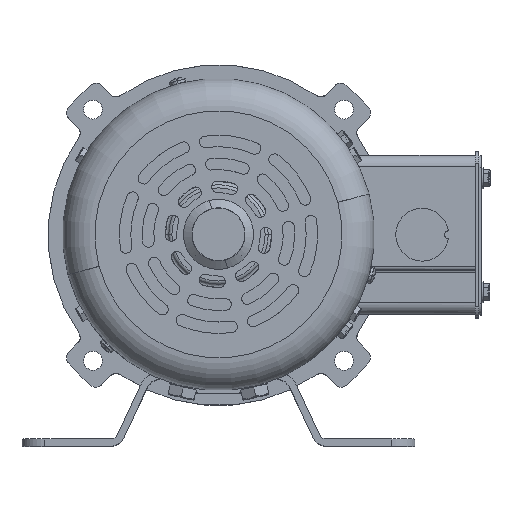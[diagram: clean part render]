
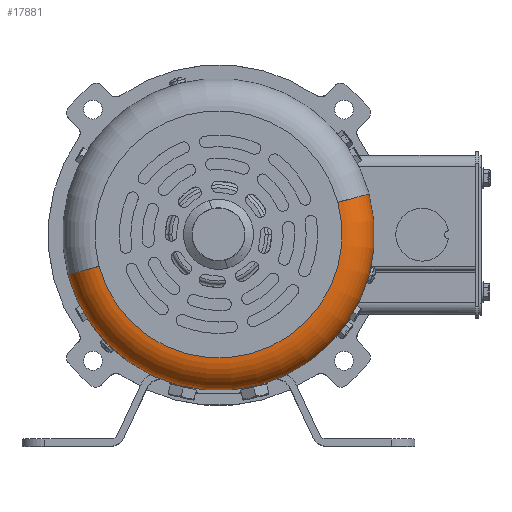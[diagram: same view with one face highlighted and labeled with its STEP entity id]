
A CAD part, top view. The second image highlights one B-rep face of the part: STEP entity #17881.
In plain terms, the highlighted toroidal (fillet/blend) face has major radius 51.943 mm and minor radius 13.589 mm.
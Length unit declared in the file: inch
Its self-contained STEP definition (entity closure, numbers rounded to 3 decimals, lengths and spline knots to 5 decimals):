
#2726 = CARTESIAN_POINT ( 'NONE',  ( 1.97532, 0.52928, 10.81056 ) ) ;
#4726 = AXIS2_PLACEMENT_3D ( 'NONE', #34912, #110945, #25364 ) ;
#7804 = AXIS2_PLACEMENT_3D ( 'NONE', #45274, #53969, #121300 ) ;
#17107 = CARTESIAN_POINT ( 'NONE',  ( -1.97532, -0.52928, 10.81056 ) ) ;
#17268 = VERTEX_POINT ( 'NONE', #48810 ) ;
#17881 = ADVANCED_FACE ( 'NONE', ( #104067 ), #43416, .T. ) ;
#25364 = DIRECTION ( 'NONE',  ( -0.966, -0.259, 0. ) ) ;
#30083 = ORIENTED_EDGE ( 'NONE', *, *, #54988, .F. ) ;
#30523 = EDGE_CURVE ( 'NONE', #120144, #17268, #114842, .T. ) ;
#30626 = DIRECTION ( 'NONE',  ( 0., 0., -1. ) ) ;
#32237 = CARTESIAN_POINT ( 'NONE',  ( 0., 0., 10.27556 ) ) ;
#34175 = CARTESIAN_POINT ( 'NONE',  ( 0., 0., 10.81056 ) ) ;
#34912 = CARTESIAN_POINT ( 'NONE',  ( -1.97532, -0.52928, 10.27556 ) ) ;
#35931 = VERTEX_POINT ( 'NONE', #2726 ) ;
#36226 = AXIS2_PLACEMENT_3D ( 'NONE', #32237, #30626, #116157 ) ;
#38060 = ORIENTED_EDGE ( 'NONE', *, *, #53012, .T. ) ;
#39264 = CARTESIAN_POINT ( 'NONE',  ( 2.49209, 0.66775, 10.27556 ) ) ;
#42020 = EDGE_LOOP ( 'NONE', ( #106444, #89792, #38060, #30083 ) ) ;
#43416 = TOROIDAL_SURFACE ( 'NONE', #109754, 2.045, 0.535 ) ;
#44598 = DIRECTION ( 'NONE',  ( 0., 0., 1. ) ) ;
#45274 = CARTESIAN_POINT ( 'NONE',  ( 1.97532, 0.52928, 10.27556 ) ) ;
#48810 = CARTESIAN_POINT ( 'NONE',  ( -2.49209, -0.66775, 10.27556 ) ) ;
#52408 = DIRECTION ( 'NONE',  ( 0., 0., 1. ) ) ;
#53012 = EDGE_CURVE ( 'NONE', #120144, #35931, #70682, .T. ) ;
#53969 = DIRECTION ( 'NONE',  ( 0.259, -0.966, 0. ) ) ;
#54141 = DIRECTION ( 'NONE',  ( 0.966, 0.259, 0. ) ) ;
#54988 = EDGE_CURVE ( 'NONE', #94679, #35931, #115890, .T. ) ;
#68335 = EDGE_CURVE ( 'NONE', #17268, #94679, #114352, .T. ) ;
#70682 = CIRCLE ( 'NONE', #7804, 0.535 ) ;
#80938 = DIRECTION ( 'NONE',  ( 0.966, 0.259, 0. ) ) ;
#84272 = CARTESIAN_POINT ( 'NONE',  ( 0., 0., 10.27556 ) ) ;
#89792 = ORIENTED_EDGE ( 'NONE', *, *, #30523, .F. ) ;
#90425 = AXIS2_PLACEMENT_3D ( 'NONE', #34175, #52408, #80938 ) ;
#94679 = VERTEX_POINT ( 'NONE', #17107 ) ;
#104067 = FACE_OUTER_BOUND ( 'NONE', #42020, .T. ) ;
#106444 = ORIENTED_EDGE ( 'NONE', *, *, #68335, .F. ) ;
#109754 = AXIS2_PLACEMENT_3D ( 'NONE', #84272, #44598, #54141 ) ;
#110945 = DIRECTION ( 'NONE',  ( -0.259, 0.966, 0. ) ) ;
#114352 = CIRCLE ( 'NONE', #4726, 0.535 ) ;
#114842 = CIRCLE ( 'NONE', #36226, 2.58 ) ;
#115890 = CIRCLE ( 'NONE', #90425, 2.045 ) ;
#116157 = DIRECTION ( 'NONE',  ( 0.966, 0.259, 0. ) ) ;
#120144 = VERTEX_POINT ( 'NONE', #39264 ) ;
#121300 = DIRECTION ( 'NONE',  ( 0.966, 0.259, 0. ) ) ;
